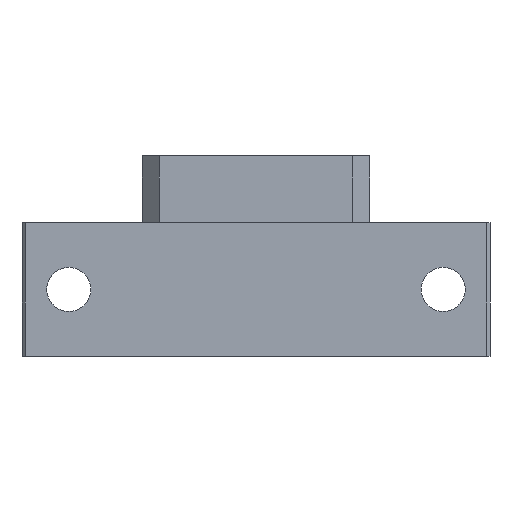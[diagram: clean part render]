
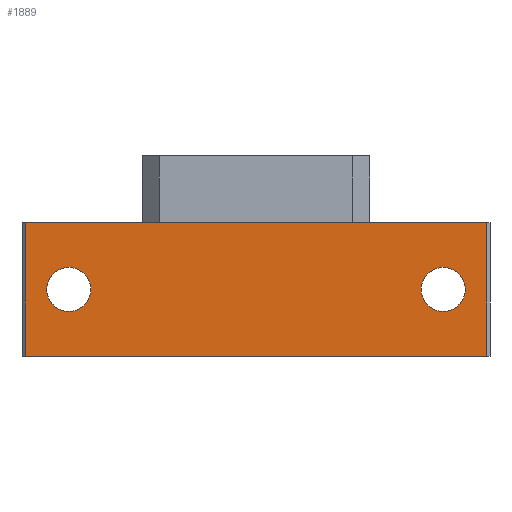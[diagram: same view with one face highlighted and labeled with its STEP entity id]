
A CAD part, front view. The second image highlights one B-rep face of the part: STEP entity #1889.
In plain terms, the highlighted planar face has unit normal (0, -1, 0).
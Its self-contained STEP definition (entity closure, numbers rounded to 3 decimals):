
#165 = AXIS2_PLACEMENT_3D ( 'NONE', #3759, #2843, #4151 ) ;
#205 = EDGE_LOOP ( 'NONE', ( #945, #353 ) ) ;
#207 = EDGE_CURVE ( 'NONE', #4963, #2221, #2982, .T. ) ;
#277 = CARTESIAN_POINT ( 'NONE',  ( 34.5, -25., 0. ) ) ;
#353 = ORIENTED_EDGE ( 'NONE', *, *, #4527, .F. ) ;
#390 = VERTEX_POINT ( 'NONE', #277 ) ;
#418 = VERTEX_POINT ( 'NONE', #2715 ) ;
#427 = LINE ( 'NONE', #3646, #4959 ) ;
#487 = VERTEX_POINT ( 'NONE', #2252 ) ;
#587 = CARTESIAN_POINT ( 'NONE',  ( -34.5, -25., 20. ) ) ;
#600 = ORIENTED_EDGE ( 'NONE', *, *, #207, .T. ) ;
#647 = EDGE_CURVE ( 'NONE', #2221, #4963, #3332, .T. ) ;
#716 = AXIS2_PLACEMENT_3D ( 'NONE', #2519, #2950, #4890 ) ;
#734 = EDGE_LOOP ( 'NONE', ( #600, #4026 ) ) ;
#790 = AXIS2_PLACEMENT_3D ( 'NONE', #2175, #3780, #3379 ) ;
#827 = VERTEX_POINT ( 'NONE', #1583 ) ;
#945 = ORIENTED_EDGE ( 'NONE', *, *, #2841, .F. ) ;
#947 = FACE_OUTER_BOUND ( 'NONE', #2267, .T. ) ;
#958 = VECTOR ( 'NONE', #3292, 1000. ) ;
#1235 = LINE ( 'NONE', #2833, #958 ) ;
#1267 = DIRECTION ( 'NONE',  ( 0., 0., -1. ) ) ;
#1378 = VECTOR ( 'NONE', #3359, 1000. ) ;
#1415 = ORIENTED_EDGE ( 'NONE', *, *, #3054, .F. ) ;
#1583 = CARTESIAN_POINT ( 'NONE',  ( -28., -25., 13.3 ) ) ;
#1627 = CARTESIAN_POINT ( 'NONE',  ( 28., -25., 10. ) ) ;
#1705 = VERTEX_POINT ( 'NONE', #3819 ) ;
#1754 = CARTESIAN_POINT ( 'NONE',  ( -34.5, -25., 20. ) ) ;
#1804 = ORIENTED_EDGE ( 'NONE', *, *, #1899, .T. ) ;
#1889 = ADVANCED_FACE ( 'NONE', ( #3024, #4571, #947 ), #4147, .F. ) ;
#1899 = EDGE_CURVE ( 'NONE', #418, #1705, #4200, .T. ) ;
#1937 = VERTEX_POINT ( 'NONE', #2248 ) ;
#1998 = CARTESIAN_POINT ( 'NONE',  ( -28., -25., 10. ) ) ;
#2015 = CIRCLE ( 'NONE', #2678, 3.3 ) ;
#2052 = ORIENTED_EDGE ( 'NONE', *, *, #2735, .F. ) ;
#2175 = CARTESIAN_POINT ( 'NONE',  ( -34.5, -25., 20. ) ) ;
#2221 = VERTEX_POINT ( 'NONE', #2558 ) ;
#2248 = CARTESIAN_POINT ( 'NONE',  ( -28., -25., 6.7 ) ) ;
#2252 = CARTESIAN_POINT ( 'NONE',  ( 34.5, -25., 20. ) ) ;
#2257 = ORIENTED_EDGE ( 'NONE', *, *, #3304, .T. ) ;
#2267 = EDGE_LOOP ( 'NONE', ( #2257, #2052, #1415, #1804 ) ) ;
#2385 = DIRECTION ( 'NONE',  ( 0., 1., 0. ) ) ;
#2519 = CARTESIAN_POINT ( 'NONE',  ( 28., -25., 10. ) ) ;
#2558 = CARTESIAN_POINT ( 'NONE',  ( 28., -25., 6.7 ) ) ;
#2678 = AXIS2_PLACEMENT_3D ( 'NONE', #1998, #4017, #4447 ) ;
#2715 = CARTESIAN_POINT ( 'NONE',  ( -34.5, -25., 20. ) ) ;
#2735 = EDGE_CURVE ( 'NONE', #487, #390, #427, .T. ) ;
#2833 = CARTESIAN_POINT ( 'NONE',  ( -34.5, -25., 0. ) ) ;
#2841 = EDGE_CURVE ( 'NONE', #827, #1937, #2015, .T. ) ;
#2843 = DIRECTION ( 'NONE',  ( 0., -1., 0. ) ) ;
#2950 = DIRECTION ( 'NONE',  ( 0., 1., 0. ) ) ;
#2982 = CIRCLE ( 'NONE', #716, 3.3 ) ;
#3024 = FACE_BOUND ( 'NONE', #205, .T. ) ;
#3054 = EDGE_CURVE ( 'NONE', #418, #487, #3075, .T. ) ;
#3075 = LINE ( 'NONE', #1754, #1378 ) ;
#3163 = DIRECTION ( 'NONE',  ( 0., 0., 1. ) ) ;
#3292 = DIRECTION ( 'NONE',  ( 1., 0., 0. ) ) ;
#3304 = EDGE_CURVE ( 'NONE', #1705, #390, #1235, .T. ) ;
#3332 = CIRCLE ( 'NONE', #4680, 3.3 ) ;
#3359 = DIRECTION ( 'NONE',  ( 1., 0., 0. ) ) ;
#3379 = DIRECTION ( 'NONE',  ( 0., 0., 1. ) ) ;
#3646 = CARTESIAN_POINT ( 'NONE',  ( 34.5, -25., 20. ) ) ;
#3754 = VECTOR ( 'NONE', #3807, 1000. ) ;
#3759 = CARTESIAN_POINT ( 'NONE',  ( -28., -25., 10. ) ) ;
#3780 = DIRECTION ( 'NONE',  ( 0., 1., 0. ) ) ;
#3807 = DIRECTION ( 'NONE',  ( 0., 0., -1. ) ) ;
#3819 = CARTESIAN_POINT ( 'NONE',  ( -34.5, -25., 0. ) ) ;
#4017 = DIRECTION ( 'NONE',  ( 0., -1., 0. ) ) ;
#4026 = ORIENTED_EDGE ( 'NONE', *, *, #647, .T. ) ;
#4147 = PLANE ( 'NONE',  #790 ) ;
#4151 = DIRECTION ( 'NONE',  ( 0., 0., 1. ) ) ;
#4200 = LINE ( 'NONE', #587, #3754 ) ;
#4417 = CARTESIAN_POINT ( 'NONE',  ( 28., -25., 13.3 ) ) ;
#4447 = DIRECTION ( 'NONE',  ( 0., 0., 1. ) ) ;
#4527 = EDGE_CURVE ( 'NONE', #1937, #827, #4623, .T. ) ;
#4571 = FACE_BOUND ( 'NONE', #734, .T. ) ;
#4623 = CIRCLE ( 'NONE', #165, 3.3 ) ;
#4680 = AXIS2_PLACEMENT_3D ( 'NONE', #1627, #2385, #3163 ) ;
#4890 = DIRECTION ( 'NONE',  ( 0., 0., 1. ) ) ;
#4959 = VECTOR ( 'NONE', #1267, 1000. ) ;
#4963 = VERTEX_POINT ( 'NONE', #4417 ) ;
